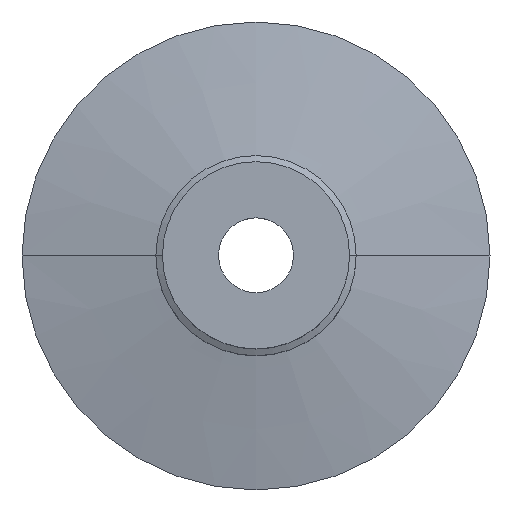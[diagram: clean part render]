
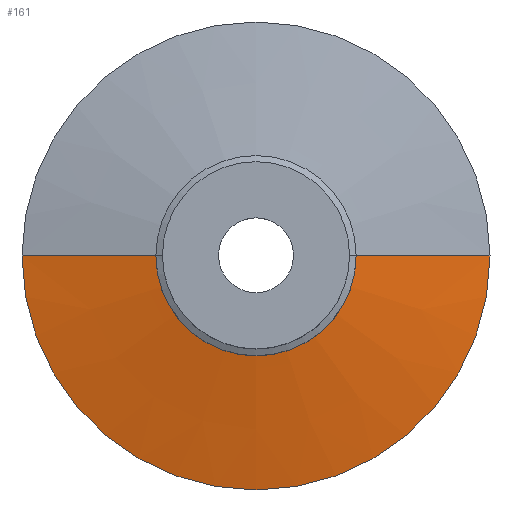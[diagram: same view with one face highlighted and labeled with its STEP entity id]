
A CAD part, top view. The second image highlights one B-rep face of the part: STEP entity #161.
In plain terms, the highlighted conical face has half-angle 78.846 degrees and reference radius 25 mm.
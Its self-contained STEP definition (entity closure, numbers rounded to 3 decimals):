
#27 = ORIENTED_EDGE ( 'NONE', *, *, #537, .F. ) ;
#28 = DIRECTION ( 'NONE',  ( -0.981, 0., -0.193 ) ) ;
#42 = VERTEX_POINT ( 'NONE', #216 ) ;
#62 = DIRECTION ( 'NONE',  ( -1., 0., 0. ) ) ;
#161 = ADVANCED_FACE ( 'NONE', ( #215 ), #423, .T. ) ;
#172 = VECTOR ( 'NONE', #28, 1000. ) ;
#190 = CARTESIAN_POINT ( 'NONE',  ( -25., 0., -43. ) ) ;
#192 = AXIS2_PLACEMENT_3D ( 'NONE', #450, #890, #371 ) ;
#215 = FACE_OUTER_BOUND ( 'NONE', #644, .T. ) ;
#216 = CARTESIAN_POINT ( 'NONE',  ( -5.591, 0., -39.173 ) ) ;
#234 = CARTESIAN_POINT ( 'NONE',  ( 0., 0., -43. ) ) ;
#247 = ORIENTED_EDGE ( 'NONE', *, *, #946, .T. ) ;
#269 = VERTEX_POINT ( 'NONE', #604 ) ;
#312 = DIRECTION ( 'NONE',  ( 1., 0., 0. ) ) ;
#357 = LINE ( 'NONE', #190, #172 ) ;
#371 = DIRECTION ( 'NONE',  ( 1., 0., 0. ) ) ;
#376 = CARTESIAN_POINT ( 'NONE',  ( 0., 0., -43. ) ) ;
#415 = EDGE_CURVE ( 'NONE', #269, #426, #891, .T. ) ;
#423 = CONICAL_SURFACE ( 'NONE', #562, 25., 1.376 ) ;
#426 = VERTEX_POINT ( 'NONE', #868 ) ;
#450 = CARTESIAN_POINT ( 'NONE',  ( 0., 0., -39.173 ) ) ;
#456 = DIRECTION ( 'NONE',  ( 0., 0., -1. ) ) ;
#494 = VECTOR ( 'NONE', #517, 1000. ) ;
#515 = EDGE_CURVE ( 'NONE', #42, #614, #357, .T. ) ;
#517 = DIRECTION ( 'NONE',  ( 0.981, 0., -0.193 ) ) ;
#537 = EDGE_CURVE ( 'NONE', #42, #269, #960, .T. ) ;
#562 = AXIS2_PLACEMENT_3D ( 'NONE', #376, #456, #62 ) ;
#604 = CARTESIAN_POINT ( 'NONE',  ( 5.591, 0., -39.173 ) ) ;
#614 = VERTEX_POINT ( 'NONE', #806 ) ;
#627 = CARTESIAN_POINT ( 'NONE',  ( 25., 0., -43. ) ) ;
#644 = EDGE_LOOP ( 'NONE', ( #887, #27, #957, #247 ) ) ;
#768 = DIRECTION ( 'NONE',  ( 0., 0., 1. ) ) ;
#786 = CIRCLE ( 'NONE', #926, 25. ) ;
#806 = CARTESIAN_POINT ( 'NONE',  ( -25., 0., -43. ) ) ;
#868 = CARTESIAN_POINT ( 'NONE',  ( 25., 0., -43. ) ) ;
#887 = ORIENTED_EDGE ( 'NONE', *, *, #415, .F. ) ;
#890 = DIRECTION ( 'NONE',  ( 0., 0., 1. ) ) ;
#891 = LINE ( 'NONE', #627, #494 ) ;
#926 = AXIS2_PLACEMENT_3D ( 'NONE', #234, #768, #312 ) ;
#946 = EDGE_CURVE ( 'NONE', #614, #426, #786, .T. ) ;
#957 = ORIENTED_EDGE ( 'NONE', *, *, #515, .T. ) ;
#960 = CIRCLE ( 'NONE', #192, 5.591 ) ;
